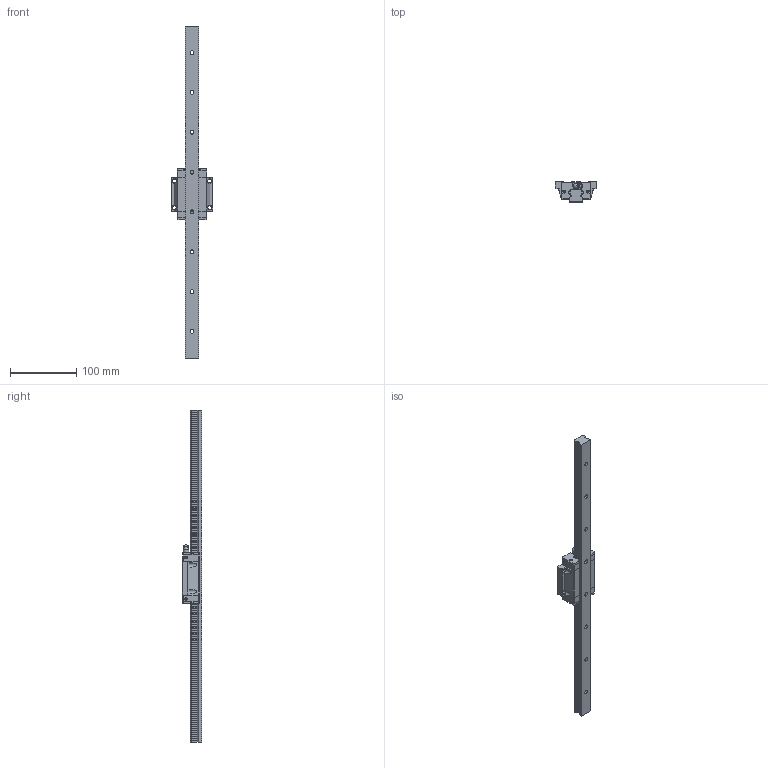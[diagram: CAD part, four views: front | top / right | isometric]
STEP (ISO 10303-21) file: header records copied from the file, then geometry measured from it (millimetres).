
FILE_DESCRIPTION(/* description */ ('STEP AP203'),/* implementation_level */ '2;1');
FILE_NAME(/* name */ 'D:\FOLDER Tomasz Michałek\pliki z pulpitu\Katalogi inne\Technika liniowa\NATECH\Modele 3D\NATECH linear block 3D drawing\NGW\NGW20CC\NGW20CC1R500.stp',/* time_stamp */ '2021-01-21T16:45:14+01:00',/* author */ ('dnia_tomasz_tm'),/* organization */ ('IT'),/* preprocessor_version */ 'ST-DEVELOPER v16.13',/* originating_system */ 'Autodesk Inventor 2018',/* authorisation */ '');
FILE_SCHEMA (('AUTOMOTIVE_DESIGN { 1 0 10303 214 3 1 1 }'));
Length unit declared in the file: millimetre
Products named in the file (3): NGW20CC1R500ZACI; GHW20CC1R500ZACI_1_GHW20CC; GHW20CC1R500ZACI_2_GHW20CC
Assembly tree (2 placements, depth 2):
  NGW20CC1R500ZACI
    GHW20CC1R500ZACI_1_GHW20CC
    GHW20CC1R500ZACI_2_GHW20CC
Bounding box: 63 x 30 x 500 mm (x, y, z)
Volume: 229553.9 mm3; surface area: 67111.2 mm2
Topology: 7 solids, 7 shells, 437 faces, 1152 edges, 759 vertices
Faces by surface type: plane 333, cylinder 70, cone 19, torus 9, sphere 5, bspline 1
Full cylindrical faces by diameter (mm): 0.531 x4, 3.352 x4, 3.93 x6, 4.5 x1, 6 x12, 7.2 x4, 8 x1, 9.5 x8
Entity records: 13222 total; most frequent: CARTESIAN_POINT 2391, ORIENTED_EDGE 2190, DIRECTION 2166, EDGE_CURVE 1095, LINE 832, VECTOR 832, VERTEX_POINT 754, AXIS2_PLACEMENT_3D 667
